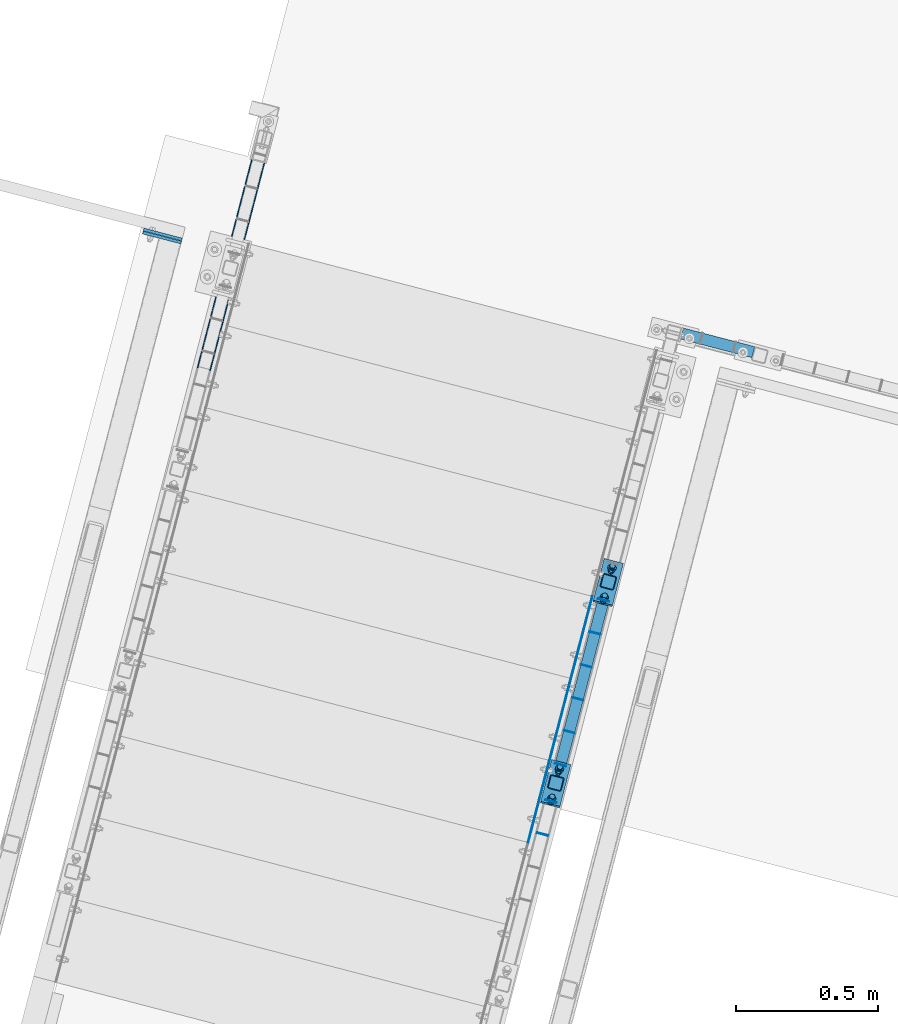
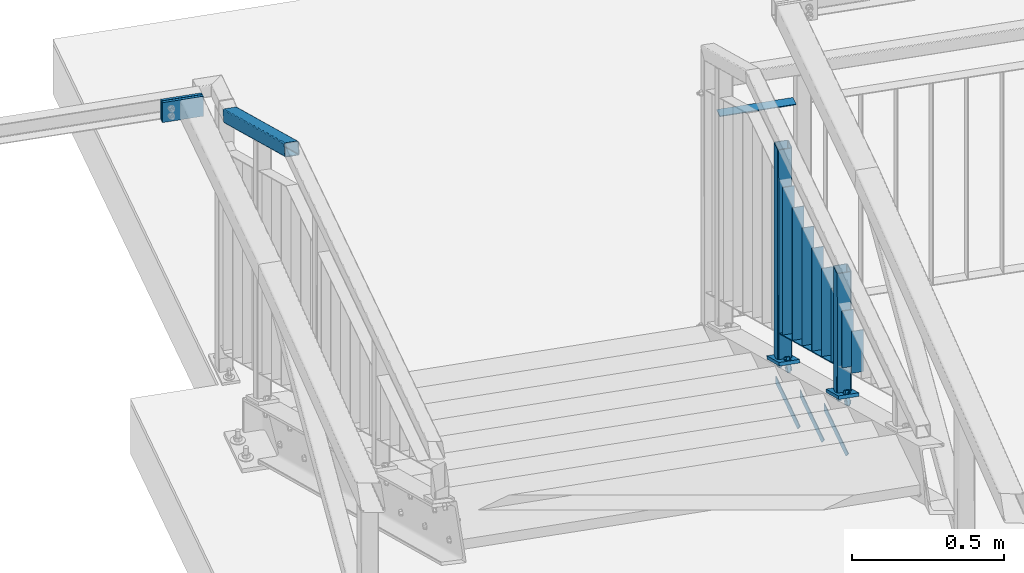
# One storey, part 93 of 169: 20 discrete accessories, 2 mechanical fasteners, 8 elements without a shape of their own.
"""IFC2X3 building model written with IfcOpenShell, lengths in millimetres."""

from ifc_helpers import new_model, si_unit, frame, frame_2d, origin_with_axes, origin_2d_with_axis, place, context, subcontext, project, spatial, polyline, circle_curve, parameter, trimmed, segment, composite_curve, rectangle, hollow_rectangle, circle, outline, extrude, boolean, clip, halfspace, source, transform, mapped, material, type_object, element, aggregate, save


model = new_model("IFC2X3")

# Units and contexts
model_context = context("Model", 3, precision=1e-05, world=origin_with_axes())
body_context = subcontext(model_context, "Body", "Model", "MODEL_VIEW")
ifc_project = project(units=[si_unit("LENGTHUNIT", "METRE", prefix="MILLI"), si_unit("AREAUNIT", "SQUARE_METRE"), si_unit("VOLUMEUNIT", "CUBIC_METRE"), si_unit("MASSUNIT", "GRAM", prefix="KILO"), si_unit("TIMEUNIT", "SECOND"), si_unit("PLANEANGLEUNIT", "RADIAN"), si_unit("SOLIDANGLEUNIT", "STERADIAN"), si_unit("THERMODYNAMICTEMPERATUREUNIT", "DEGREE_CELSIUS"), si_unit("LUMINOUSINTENSITYUNIT", "LUMEN")], contexts=[model_context])

# Site, building, storey
site_placement = place(None, origin_with_axes())
site = spatial("IfcSite", under=ifc_project, at=site_placement, Name="Undefined", CompositionType="ELEMENT")
building_placement = place(site_placement, origin_with_axes())
building = spatial("IfcBuilding", under=site, at=building_placement, Name="Undefined", CompositionType="ELEMENT")
storey_placement = place(building_placement, origin_with_axes())
storey = spatial("IfcBuildingStorey", under=building, at=storey_placement, Name="Undefined", CompositionType="ELEMENT", Elevation=0.0)

# Assembly, discrete accessories
assembly_1_placement = place(storey_placement, origin_with_axes())
assembly_1 = element("IfcElementAssembly", 1, at=assembly_1_placement, inside=storey, Name="Steel Assembly", AssemblyPlace="NOTDEFINED", PredefinedType="RIGID_FRAME")
ifc_material_1 = material(Name="STEEL/S235")
discrete_accessory_type_1 = type_object("IfcDiscreteAccessoryType", Name="BLACHA")
discrete_accessory_1_placement = place(assembly_1_placement, frame((-8830.86308193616, 20045.8934008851, 13133.5864483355), z_axis=(0.111692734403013, 0.427781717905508, 0.896954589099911), x_axis=(-0.967563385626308, 0.252628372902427, -1.72000000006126e-07)))
discrete_accessory_1 = element("IfcDiscreteAccessory", 2, at=discrete_accessory_1_placement, type_object=discrete_accessory_type_1, material=ifc_material_1, Name="BLACHA", ObjectType="BL12*170", context=body_context, shape_type="SweptSolid", body=[
    extrude(outline(polyline([(70.0000000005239, 84.9999999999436), (70.0000000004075, -84.9999999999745), (-5.82076609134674e-11, -84.99999999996), (5.82076609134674e-11, 84.99999999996), (70.0000000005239, 84.9999999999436)])), frame((-1.81898942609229e-12, -1.81898940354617e-12, -5.99999999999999), z_axis=(0.0, 0.0, 1.0), x_axis=(1.0, 0.0, 0.0)), (0.0, 0.0, 1.0), 12.0),
])
discrete_accessory_2_placement = place(assembly_1_placement, frame((-9016.1231410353, 19336.3497817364, 13495.0562427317), z_axis=(0.111692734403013, 0.427781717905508, 0.896954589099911), x_axis=(-0.967563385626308, 0.252628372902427, -1.72000000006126e-07)))
discrete_accessory_2 = element("IfcDiscreteAccessory", 3, at=discrete_accessory_2_placement, type_object=discrete_accessory_type_1, material=ifc_material_1, Name="BLACHA", ObjectType="BL12*170", context=body_context, shape_type="SweptSolid", body=[
    extrude(outline(polyline([(70.0000000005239, 84.9999999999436), (70.0000000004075, -84.9999999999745), (-5.82076609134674e-11, -84.99999999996), (5.82076609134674e-11, 84.99999999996), (70.0000000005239, 84.9999999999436)])), frame((-1.81898942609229e-12, -1.81898940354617e-12, -5.99999999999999), z_axis=(0.0, 0.0, 1.0), x_axis=(1.0, 0.0, 0.0)), (0.0, 0.0, 1.0), 12.0),
])

# Assembly, discrete accessory
assembly_2_placement = place(storey_placement, origin_with_axes())
assembly_2 = element("IfcElementAssembly", 4, at=assembly_2_placement, inside=storey, Name="Steel Assembly", AssemblyPlace="NOTDEFINED", PredefinedType="RIGID_FRAME")
discrete_accessory_3_placement = place(assembly_2_placement, frame((-10438.3229342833, 21271.7284155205, 13910.4176082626), z_axis=(-0.252628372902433, -0.967563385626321, 0.0), x_axis=(0.0, 0.0, 1.0)))
discrete_accessory_3 = element("IfcDiscreteAccessory", 5, at=discrete_accessory_3_placement, type_object=discrete_accessory_type_1, material=ifc_material_1, Name="BLACHA", ObjectType="BL10*140", context=body_context, shape_type="SweptSolid", body=[
    extrude(outline(polyline([(1.4915713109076e-10, 69.9999999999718), (79.9999999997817, 69.999999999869), (79.9999999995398, -70.00000000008), (-1.4915713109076e-10, -69.9999999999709), (1.4915713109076e-10, 69.9999999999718)])), frame((-1.81898926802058e-12, -1.18000176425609e-16, -5.00000000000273), z_axis=(0.0, 0.0, 1.0), x_axis=(1.0, 0.0, 0.0)), (0.0, 0.0, 1.0), 10.0),
])
aggregate(assembly_2, [discrete_accessory_3])

assembly_3_placement = place(storey_placement, origin_with_axes())
assembly_3 = element("IfcElementAssembly", 6, at=assembly_3_placement, inside=storey, Name="Steel Assembly", AssemblyPlace="NOTDEFINED", PredefinedType="RIGID_FRAME")
discrete_accessory_4_placement = place(assembly_3_placement, frame((-10435.5440221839, 21282.3716127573, 13910.417608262), z_axis=(-0.252628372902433, -0.967563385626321, 0.0), x_axis=(0.0, 0.0, 1.0)))
discrete_accessory_4 = element("IfcDiscreteAccessory", 7, at=discrete_accessory_4_placement, type_object=discrete_accessory_type_1, material=ifc_material_1, Name="BLACHA", ObjectType="BL10*140", context=body_context, shape_type="SweptSolid", body=[
    extrude(outline(polyline([(1.4915713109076e-10, 69.9999999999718), (79.9999999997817, 69.999999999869), (79.9999999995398, -70.00000000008), (-1.4915713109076e-10, -69.9999999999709), (1.4915713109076e-10, 69.9999999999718)])), frame((-1.81898926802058e-12, -1.18000176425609e-16, -5.00000000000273), z_axis=(0.0, 0.0, 1.0), x_axis=(1.0, 0.0, 0.0)), (0.0, 0.0, 1.0), 10.0),
])
aggregate(assembly_3, [discrete_accessory_4])

assembly_4_placement = place(storey_placement, origin_with_axes())
assembly_4 = element("IfcElementAssembly", 8, at=assembly_4_placement, inside=storey, Name="Steel Assembly", AssemblyPlace="NOTDEFINED", PredefinedType="RIGID_FRAME")
discrete_accessory_type_2 = type_object("IfcDiscreteAccessoryType", Name="PORĘCZ")
discrete_accessory_5_placement = place(assembly_4_placement, frame((-8550.11127830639, 20918.9666523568, 13495.4183763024), z_axis=(0.0, 0.0, 1.0), x_axis=(0.967563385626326, -0.252628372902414, 0.0)))
discrete_accessory_5 = element("IfcDiscreteAccessory", 9, at=discrete_accessory_5_placement, type_object=discrete_accessory_type_2, material=ifc_material_1, Name="PORĘCZ", ObjectType="BL40*3", context=body_context, shape_type="CSG", body=[
    boolean("DIFFERENCE", boolean("DIFFERENCE", boolean("DIFFERENCE", extrude(outline(polyline([(-56.0820904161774, -20.0000000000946), (-56.0820904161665, 19.9999999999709), (204.000000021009, 20.0000000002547), (204.000000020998, -19.9999999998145), (-56.0820904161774, -20.0000000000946)])), frame((1.81898940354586e-12, -1.77635442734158e-15, -1.50000000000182), z_axis=(0.0, 0.0, 1.0), x_axis=(1.0, 0.0, 0.0)), (0.0, 0.0, 1.0), 3.0), extrude(rectangle(XDim=51.0, YDim=51.0, at=origin_2d_with_axis()), frame((230.00000000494, -2.41925590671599e-09, 140.0), z_axis=(-2.54700353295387e-10, 0.0, -1.0), x_axis=(-1.0, -3.46944695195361e-18, -1.38777878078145e-17)), (0.0, 0.0, 1.0), 280.0)), halfspace(frame((-56.0820904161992, 1000.0000000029, 0.0), z_axis=(1.0, 0.0, 0.0), x_axis=(-2.54700353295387e-10, 0.0, -1.0)), True)), halfspace(frame((204.0000000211, 999.999999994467, 0.0), z_axis=(-1.0, -3.46944695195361e-18, -1.38777878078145e-17), x_axis=(0.0, 0.0, 1.0)), True)),
])
aggregate(assembly_4, [discrete_accessory_5])

# Discrete accessory
discrete_accessory_6_placement = place(assembly_1_placement, frame((-9096.47462554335, 19167.1480649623, 13946.7451865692), z_axis=(-0.252628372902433, -0.967563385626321, 0.0), x_axis=(-2.54700353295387e-10, 0.0, -1.0)))
discrete_accessory_6 = element("IfcDiscreteAccessory", 10, at=discrete_accessory_6_placement, type_object=discrete_accessory_type_2, material=ifc_material_1, Name="PORĘCZ", ObjectType="BL40*3", context=body_context, shape_type="Clipping", body=[
    clip(clip(extrude(outline(polyline([(246.326238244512, -19.9999999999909), (77.8275788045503, -19.9999999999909), (77.8275788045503, 19.9999999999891), (246.326238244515, 19.9999999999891), (246.326238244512, -19.9999999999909)])), frame((1.81898940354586e-12, -1.77635442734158e-15, -1.50000000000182), z_axis=(0.0, 0.0, 1.0), x_axis=(1.0, 0.0, 0.0)), (0.0, 0.0, 1.0), 3.0), halfspace(frame((77.8275788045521, 999.999999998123, 1.23091012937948e-08), z_axis=(1.0, 0.0, 0.0), x_axis=(-2.54700353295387e-10, 0.0, -1.0)), True)), halfspace(frame((246.655722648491, 999.999999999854, -0.66552116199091), z_axis=(-0.89618489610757, 8.07050632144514e-16, -0.443680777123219), x_axis=(-0.443680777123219, 6.25441316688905e-11, 0.89618489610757)), True)),
])

discrete_accessory_7_placement = place(assembly_1_placement, frame((-9066.15922079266, 19283.2556712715, 13987.3359134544), z_axis=(-0.252628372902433, -0.967563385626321, 0.0), x_axis=(-2.54700353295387e-10, 0.0, -1.0)))
discrete_accessory_7 = element("IfcDiscreteAccessory", 11, at=discrete_accessory_7_placement, type_object=discrete_accessory_type_2, material=ifc_material_1, Name="PORĘCZ", ObjectType="BL40*3", context=body_context, shape_type="Clipping", body=[
    clip(clip(extrude(outline(polyline([(346.326238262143, -19.9999999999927), (118.41830568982, -19.9999999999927), (118.41830568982, 19.9999999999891), (346.326238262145, 19.9999999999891), (346.326238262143, -19.9999999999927)])), frame((1.81898940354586e-12, -1.77635442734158e-15, -1.50000000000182), z_axis=(0.0, 0.0, 1.0), x_axis=(1.0, 0.0, 0.0)), (0.0, 0.0, 1.0), 3.0), halfspace(frame((118.41830568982, 999.999999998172, 1.19453034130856e-08), z_axis=(1.0, 0.0, 0.0), x_axis=(-2.54700353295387e-10, 0.0, -1.0)), True)), halfspace(frame((346.655722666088, 999.999999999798, -0.665521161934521), z_axis=(-0.89618489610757, 8.07050632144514e-16, -0.443680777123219), x_axis=(-0.443680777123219, 6.25441316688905e-11, 0.89618489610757)), True)),
])

discrete_accessory_8_placement = place(assembly_1_placement, frame((-9032.47618547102, 19412.261258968, 14121.3270752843), z_axis=(-0.252628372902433, -0.967563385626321, 0.0), x_axis=(-2.54700353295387e-10, 0.0, -1.0)))
discrete_accessory_8 = element("IfcDiscreteAccessory", 12, at=discrete_accessory_8_placement, type_object=discrete_accessory_type_2, material=ifc_material_1, Name="PORĘCZ", ObjectType="BL40*3", context=body_context, shape_type="Clipping", body=[
    clip(clip(extrude(outline(polyline([(546.326238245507, -19.9999999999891), (252.40946751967, -19.9999999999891), (252.40946751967, 19.9999999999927), (546.32623824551, 19.9999999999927), (546.326238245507, -19.9999999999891)])), frame((1.81898940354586e-12, -1.77635442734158e-15, -1.50000000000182), z_axis=(0.0, 0.0, 1.0), x_axis=(1.0, 0.0, 0.0)), (0.0, 0.0, 1.0), 3.0), halfspace(frame((252.409467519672, 999.999999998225, 1.1543306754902e-08), z_axis=(1.0, 0.0, 0.0), x_axis=(-2.54700353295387e-10, 0.0, -1.0)), True)), halfspace(frame((546.655722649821, 999.999999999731, -0.665521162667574), z_axis=(-0.89618489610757, 8.07050632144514e-16, -0.443680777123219), x_axis=(-0.443680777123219, 6.25441316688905e-11, 0.89618489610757)), True)),
])

discrete_accessory_9_placement = place(assembly_1_placement, frame((-9002.16078072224, 19528.3688652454, 14061.9178021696), z_axis=(-0.252628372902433, -0.967563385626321, 0.0), x_axis=(-2.54700353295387e-10, 0.0, -1.0)))
discrete_accessory_9 = element("IfcDiscreteAccessory", 13, at=discrete_accessory_9_placement, type_object=discrete_accessory_type_2, material=ifc_material_1, Name="PORĘCZ", ObjectType="BL40*3", context=body_context, shape_type="Clipping", body=[
    clip(clip(extrude(outline(polyline([(546.326238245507, -19.9999999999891), (193.000194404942, -19.9999999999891), (193.000194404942, 19.9999999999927), (546.32623824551, 19.9999999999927), (546.326238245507, -19.9999999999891)])), frame((1.81898940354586e-12, -1.77635442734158e-15, -1.50000000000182), z_axis=(0.0, 0.0, 1.0), x_axis=(1.0, 0.0, 0.0)), (0.0, 0.0, 1.0), 3.0), halfspace(frame((193.000194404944, 999.999999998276, 1.11831468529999e-08), z_axis=(1.0, 0.0, 0.0), x_axis=(-2.54700353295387e-10, 0.0, -1.0)), True)), halfspace(frame((546.655722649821, 999.999999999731, -0.665521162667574), z_axis=(-0.89618489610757, 8.07050632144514e-16, -0.443680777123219), x_axis=(-0.443680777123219, 6.25441316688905e-11, 0.89618489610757)), True)),
])

discrete_accessory_10_placement = place(assembly_1_placement, frame((-8971.84537597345, 19644.4764715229, 14002.5085290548), z_axis=(-0.252628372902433, -0.967563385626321, 0.0), x_axis=(-2.54700353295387e-10, 0.0, -1.0)))
discrete_accessory_10 = element("IfcDiscreteAccessory", 14, at=discrete_accessory_10_placement, type_object=discrete_accessory_type_2, material=ifc_material_1, Name="PORĘCZ", ObjectType="BL40*3", context=body_context, shape_type="Clipping", body=[
    clip(clip(extrude(outline(polyline([(546.326238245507, -19.9999999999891), (133.590921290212, -19.9999999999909), (133.590921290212, 19.9999999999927), (546.32623824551, 19.9999999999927), (546.326238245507, -19.9999999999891)])), frame((1.81898940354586e-12, -1.77635442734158e-15, -1.50000000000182), z_axis=(0.0, 0.0, 1.0), x_axis=(1.0, 0.0, 0.0)), (0.0, 0.0, 1.0), 3.0), halfspace(frame((133.590921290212, 999.99999999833, 1.08193489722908e-08), z_axis=(1.0, 0.0, 0.0), x_axis=(-2.54700353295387e-10, 0.0, -1.0)), True)), halfspace(frame((546.655722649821, 999.999999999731, -0.665521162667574), z_axis=(-0.89618489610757, 8.07050632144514e-16, -0.443680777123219), x_axis=(-0.443680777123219, 6.25441316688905e-11, 0.89618489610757)), True)),
])

discrete_accessory_11_placement = place(assembly_1_placement, frame((-8941.52997120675, 19760.5840778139, 14143.0992559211), z_axis=(-0.252628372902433, -0.967563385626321, 0.0), x_axis=(-2.54700353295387e-10, 0.0, -1.0)))
discrete_accessory_11 = element("IfcDiscreteAccessory", 15, at=discrete_accessory_11_placement, type_object=discrete_accessory_type_2, material=ifc_material_1, Name="PORĘCZ", ObjectType="BL40*3", context=body_context, shape_type="Clipping", body=[
    clip(clip(extrude(outline(polyline([(746.326238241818, -19.9999999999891), (274.181648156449, -19.9999999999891), (274.181648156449, 19.9999999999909), (746.326238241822, 19.9999999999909), (746.326238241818, -19.9999999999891)])), frame((1.81898940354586e-12, -1.77635442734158e-15, -1.50000000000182), z_axis=(0.0, 0.0, 1.0), x_axis=(1.0, 0.0, 0.0)), (0.0, 0.0, 1.0), 3.0), halfspace(frame((274.181648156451, 1000.00000000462, -2.0310835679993e-08), z_axis=(1.0, 0.0, 0.0), x_axis=(-2.54700353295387e-10, 0.0, -1.0)), True)), halfspace(frame((746.655722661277, 1000.00000000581, -0.665521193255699), z_axis=(-0.89618489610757, 8.07050632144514e-16, -0.443680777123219), x_axis=(-0.443680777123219, 6.25441316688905e-11, 0.89618489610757)), True)),
])

discrete_accessory_12_placement = place(assembly_1_placement, frame((-8911.21456644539, 19876.6916841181, 14283.6899828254), z_axis=(-0.252628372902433, -0.967563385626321, 0.0), x_axis=(-2.54700353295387e-10, 0.0, -1.0)))
discrete_accessory_12 = element("IfcDiscreteAccessory", 16, at=discrete_accessory_12_placement, type_object=discrete_accessory_type_2, material=ifc_material_1, Name="PORĘCZ", ObjectType="BL40*3", context=body_context, shape_type="Clipping", body=[
    clip(clip(extrude(outline(polyline([(946.326238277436, -19.9999999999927), (414.772375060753, -19.9999999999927), (414.772375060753, 19.9999999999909), (946.326238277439, 19.9999999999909), (946.326238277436, -19.9999999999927)])), frame((1.81898940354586e-12, -1.77635442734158e-15, -1.50000000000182), z_axis=(0.0, 0.0, 1.0), x_axis=(1.0, 0.0, 0.0)), (0.0, 0.0, 1.0), 3.0), halfspace(frame((414.772375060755, 999.999999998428, 1.00990291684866e-08), z_axis=(1.0, 0.0, 0.0), x_axis=(-2.54700353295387e-10, 0.0, -1.0)), True)), halfspace(frame((946.655722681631, 999.999999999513, -0.665521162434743), z_axis=(-0.89618489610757, 8.07050632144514e-16, -0.443680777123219), x_axis=(-0.443680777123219, 6.25441316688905e-11, 0.89618489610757)), True)),
])

discrete_accessory_13_placement = place(assembly_1_placement, frame((-8880.89916169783, 19992.7992903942, 14224.2807097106), z_axis=(-0.252628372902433, -0.967563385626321, 0.0), x_axis=(-2.54700353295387e-10, 0.0, -1.0)))
discrete_accessory_13 = element("IfcDiscreteAccessory", 17, at=discrete_accessory_13_placement, type_object=discrete_accessory_type_2, material=ifc_material_1, Name="PORĘCZ", ObjectType="BL40*3", context=body_context, shape_type="Clipping", body=[
    clip(clip(extrude(outline(polyline([(946.326238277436, -19.9999999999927), (355.363101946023, -19.9999999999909), (355.363101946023, 19.9999999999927), (946.326238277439, 19.9999999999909), (946.326238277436, -19.9999999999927)])), frame((1.81898940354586e-12, -1.77635442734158e-15, -1.50000000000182), z_axis=(0.0, 0.0, 1.0), x_axis=(1.0, 0.0, 0.0)), (0.0, 0.0, 1.0), 3.0), halfspace(frame((355.363101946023, 999.999999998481, 9.73159330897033e-09), z_axis=(1.0, 0.0, 0.0), x_axis=(-2.54700353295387e-10, 0.0, -1.0)), True)), halfspace(frame((946.655722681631, 999.999999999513, -0.665521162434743), z_axis=(-0.89618489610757, 8.07050632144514e-16, -0.443680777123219), x_axis=(-0.443680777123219, 6.25441316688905e-11, 0.89618489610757)), True)),
])

discrete_accessory_14_placement = place(assembly_1_placement, frame((-9049.31770312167, 19347.758465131, 13606.3314943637), z_axis=(0.967563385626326, -0.252628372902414, 0.0), x_axis=(0.226401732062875, 0.867115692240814, -0.443680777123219)))
discrete_accessory_14 = element("IfcDiscreteAccessory", 18, at=discrete_accessory_14_placement, type_object=discrete_accessory_type_2, material=ifc_material_1, Name="PORĘCZ", ObjectType="BL40*3", context=body_context, shape_type="CSG", body=[
    boolean("DIFFERENCE", boolean("DIFFERENCE", boolean("DIFFERENCE", extrude(rectangle(XDim=3.0, YDim=40.0, at=origin_2d_with_axis()), frame((799.420677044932, 0.0, 3.24081951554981e-14), z_axis=(-1.0, -3.46944695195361e-18, -1.38777878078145e-17), x_axis=(1.73472347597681e-18, -1.0, 0.0)), (0.0, 0.0, 1.0), 799.42), extrude(rectangle(XDim=51.0, YDim=51.0, at=origin_2d_with_axis()), frame((-62.1153087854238, 125.465885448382, -3.44399542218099e-09), z_axis=(0.44368077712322, -0.89618489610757, 2.77484007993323e-11), x_axis=(0.896184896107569, 0.443680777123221, 5.60551815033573e-11)), (0.0, 0.0, 1.0), 280.0)), extrude(rectangle(XDim=51.0, YDim=51.0, at=origin_2d_with_axis()), frame((756.164910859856, 125.465885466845, 3.9541654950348e-08), z_axis=(0.44368077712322, -0.89618489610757, 2.77484007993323e-11), x_axis=(0.896184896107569, 0.443680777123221, 5.60551815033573e-11)), (0.0, 0.0, 1.0), 280.0)), halfspace(frame((795.87559720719, -11.0920194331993, 999.999999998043), z_axis=(-0.896184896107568, -0.443680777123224, -5.60462156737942e-11), x_axis=(0.44368077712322, -0.89618489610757, 2.77484007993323e-11)), True)),
])

# Assembly, discrete accessory
assembly_5_placement = place(storey_placement, origin_with_axes())
assembly_5 = element("IfcElementAssembly", 19, at=assembly_5_placement, inside=storey, Name="Steel Assembly", AssemblyPlace="NOTDEFINED", PredefinedType="RIGID_FRAME")
discrete_accessory_15_placement = place(assembly_5_placement, frame((-10401.9542174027, 20381.8403909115, 14235.161986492), z_axis=(0.967563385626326, -0.252628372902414, 0.0), x_axis=(0.226401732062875, 0.867115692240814, -0.443680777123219)))
discrete_accessory_15 = element("IfcDiscreteAccessory", 20, at=discrete_accessory_15_placement, type_object=discrete_accessory_type_2, material=ifc_material_1, Name="PORĘCZ", ObjectType="SHS50*3", context=body_context, shape_type="Clipping", body=[
    clip(clip(extrude(hollow_rectangle(XDim=50.0, YDim=50.0, WallThickness=3.0, InnerFilletRadius=3.0, OuterFilletRadius=6.0, at=origin_2d_with_axis()), frame((1395.59672304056, 0.0, 3.26611884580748e-14), z_axis=(-1.0, -3.46944695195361e-18, -1.38777878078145e-17), x_axis=(1.73472347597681e-18, -1.0, 0.0)), (0.0, 0.0, 1.0), 955.44), halfspace(frame((1346.3260491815, -25.0000000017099, -1.34969013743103e-09), z_axis=(0.973700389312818, 0.22783228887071, 6.08992453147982e-11), x_axis=(0.0, 0.0, 1.0)), False)), halfspace(frame((489.426209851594, 25.0000000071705, 3.73984221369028e-09), z_axis=(-0.973700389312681, -0.227832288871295, -6.09027876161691e-11), x_axis=(0.0, 0.0, 1.0)), False)),
])
aggregate(assembly_5, [discrete_accessory_15])

# Discrete accessory
discrete_accessory_type_3 = type_object("IfcDiscreteAccessoryType", Name="STANCHION")
discrete_accessory_16_placement = place(assembly_1_placement, frame((-9049.31770312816, 19347.758465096, 13116.2762906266), z_axis=(0.0, 0.0, 1.0), x_axis=(-0.967563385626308, 0.252628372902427, -1.72000000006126e-07)))
discrete_accessory_16 = element("IfcDiscreteAccessory", 21, at=discrete_accessory_16_placement, type_object=discrete_accessory_type_3, material=ifc_material_1, Name="STANCHION", ObjectType="SHS50*3", context=body_context, shape_type="Clipping", body=[
    clip(clip(extrude(hollow_rectangle(XDim=50.0, YDim=50.0, WallThickness=3.0, InnerFilletRadius=3.0, OuterFilletRadius=6.0, at=origin_2d_with_axis()), frame((0.0, 0.0, 874.141317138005), z_axis=(-2.54700353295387e-10, 0.0, -1.0), x_axis=(0.0, 1.0, 0.0)), (0.0, 0.0, 1.0), 489.98), halfspace(frame((1000.00000000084, 1.21617631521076e-08, 874.141317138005), z_axis=(-2.54700353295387e-10, 0.0, -1.0), x_axis=(0.0, 1.0, 0.0)), True)), halfspace(frame((-24.9999999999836, 0.0, 384.161679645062), z_axis=(-8.96961418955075e-10, -0.442122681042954, 0.896954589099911), x_axis=(-4.02729710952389e-10, 0.896954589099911, 0.442122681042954)), True)),
])

discrete_accessory_17_placement = place(assembly_1_placement, frame((-8864.05764402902, 20057.3020842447, 13116.2762906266), z_axis=(0.0, 0.0, 1.0), x_axis=(-0.967563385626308, 0.252628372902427, -1.72000000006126e-07)))
discrete_accessory_17 = element("IfcDiscreteAccessory", 22, at=discrete_accessory_17_placement, type_object=discrete_accessory_type_3, material=ifc_material_1, Name="STANCHION", ObjectType="SHS50*3", context=body_context, shape_type="Clipping", body=[
    clip(clip(extrude(hollow_rectangle(XDim=50.0, YDim=50.0, WallThickness=3.0, InnerFilletRadius=3.0, OuterFilletRadius=6.0, at=origin_2d_with_axis()), frame((0.0, 0.0, 874.141317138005), z_axis=(-2.54700353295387e-10, 0.0, -1.0), x_axis=(0.0, 1.0, 0.0)), (0.0, 0.0, 1.0), 851.45), halfspace(frame((1000.00000000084, 1.21617631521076e-08, 874.141317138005), z_axis=(-2.54700353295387e-10, 0.0, -1.0), x_axis=(0.0, 1.0, 0.0)), True)), halfspace(frame((-24.9999999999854, -7.27595761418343e-12, 22.6918852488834), z_axis=(-8.96961418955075e-10, -0.442122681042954, 0.896954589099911), x_axis=(-4.02729710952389e-10, 0.896954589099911, 0.442122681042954)), True)),
])

# Assembly, discrete accessory
assembly_6_placement = place(storey_placement, origin_with_axes())
assembly_6 = element("IfcElementAssembly", 23, at=assembly_6_placement, inside=storey, Name="Steel Assembly", AssemblyPlace="NOTDEFINED", PredefinedType="RIGID_FRAME")
ifc_material_2 = material(Name="STEEL/S235JR")
discrete_accessory_type_4 = type_object("IfcDiscreteAccessoryType", Name="ANGLE")
discrete_accessory_18_placement = place(assembly_6_placement, frame((-9071.44465480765, 19427.2854489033, 13395.7712750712), z_axis=(-0.967563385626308, 0.252628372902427, -1.72000000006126e-07), x_axis=(-0.252628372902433, -0.967563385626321, 0.0)))
discrete_accessory_18 = element("IfcDiscreteAccessory", 24, at=discrete_accessory_18_placement, type_object=discrete_accessory_type_4, material=ifc_material_2, Name="ANGLE", ObjectType="3*30", context=body_context, shape_type="CSG", body=[
    boolean("DIFFERENCE", extrude(rectangle(XDim=30.0, YDim=3.0, at=origin_2d_with_axis()), frame((300.000000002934, 1.81898940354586e-12, -1.81898940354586e-12), z_axis=(-1.0, -3.46944695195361e-18, -1.38777878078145e-17), x_axis=(1.73472347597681e-18, -1.0, 0.0)), (0.0, 0.0, 1.0), 300.0), extrude(outline(polyline([(0.0, 0.0), (30.0000000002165, -6.73026079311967e-11), (-1.63709046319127e-10, 30.0000000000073), (0.0, 0.0)])), frame((300.000000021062, -15.0000000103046, 4.50000000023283), z_axis=(-2.54700353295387e-10, 0.0, -1.0), x_axis=(-1.0, -3.46944695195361e-18, -1.38777878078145e-17)), (0.0, 0.0, 1.0), 9.0)),
])
aggregate(assembly_6, [discrete_accessory_18])

assembly_7_placement = place(storey_placement, origin_with_axes())
assembly_7 = element("IfcElementAssembly", 25, at=assembly_7_placement, inside=storey, Name="Steel Assembly", AssemblyPlace="NOTDEFINED", PredefinedType="RIGID_FRAME")
discrete_accessory_19_placement = place(assembly_7_placement, frame((-8995.89344960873, 19716.6455830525, 13248.3596919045), z_axis=(-0.967563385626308, 0.252628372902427, -1.72000000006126e-07), x_axis=(-0.252628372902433, -0.967563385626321, 0.0)))
discrete_accessory_19 = element("IfcDiscreteAccessory", 26, at=discrete_accessory_19_placement, type_object=discrete_accessory_type_4, material=ifc_material_2, Name="ANGLE", ObjectType="3*30", context=body_context, shape_type="CSG", body=[
    boolean("DIFFERENCE", extrude(rectangle(XDim=30.0, YDim=3.0, at=origin_2d_with_axis()), frame((300.000000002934, 1.81898940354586e-12, -1.81898940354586e-12), z_axis=(-1.0, -3.46944695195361e-18, -1.38777878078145e-17), x_axis=(1.73472347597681e-18, -1.0, 0.0)), (0.0, 0.0, 1.0), 300.0), extrude(outline(polyline([(0.0, 0.0), (30.0000000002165, -6.73026079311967e-11), (-1.63709046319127e-10, 30.0000000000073), (0.0, 0.0)])), frame((300.000000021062, -15.0000000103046, 4.50000000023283), z_axis=(-2.54700353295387e-10, 0.0, -1.0), x_axis=(-1.0, -3.46944695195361e-18, -1.38777878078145e-17)), (0.0, 0.0, 1.0), 9.0)),
])
aggregate(assembly_7, [discrete_accessory_19])

assembly_8_placement = place(storey_placement, origin_with_axes())
assembly_8 = element("IfcElementAssembly", 27, at=assembly_8_placement, inside=storey, Name="Steel Assembly", AssemblyPlace="NOTDEFINED", PredefinedType="RIGID_FRAME")
discrete_accessory_20_placement = place(assembly_8_placement, frame((-8920.34224440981, 20006.0057172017, 13100.9481087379), z_axis=(-0.967563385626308, 0.252628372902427, -1.72000000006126e-07), x_axis=(-0.252628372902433, -0.967563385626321, 0.0)))
discrete_accessory_20 = element("IfcDiscreteAccessory", 28, at=discrete_accessory_20_placement, type_object=discrete_accessory_type_4, material=ifc_material_2, Name="ANGLE", ObjectType="3*30", context=body_context, shape_type="CSG", body=[
    boolean("DIFFERENCE", extrude(rectangle(XDim=30.0, YDim=3.0, at=origin_2d_with_axis()), frame((300.000000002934, 1.81898940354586e-12, -1.81898940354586e-12), z_axis=(-1.0, -3.46944695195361e-18, -1.38777878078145e-17), x_axis=(1.73472347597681e-18, -1.0, 0.0)), (0.0, 0.0, 1.0), 300.0), extrude(outline(polyline([(0.0, 0.0), (30.0000000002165, -6.73026079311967e-11), (-1.63709046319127e-10, 30.0000000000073), (0.0, 0.0)])), frame((300.000000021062, -15.0000000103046, 4.50000000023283), z_axis=(-2.54700353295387e-10, 0.0, -1.0), x_axis=(-1.0, -3.46944695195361e-18, -1.38777878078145e-17)), (0.0, 0.0, 1.0), 9.0)),
])
aggregate(assembly_8, [discrete_accessory_20])

# Mechanical fastener
ifc_material_3 = material(Name="Undefined")
discrete_accessory_type_5 = type_object("IfcDiscreteAccessoryType", Name="Bolt assembly")
shared_shape_1 = source(origin_with_axes(), body_context, "Body", "SweptSolid", [
    extrude(outline(composite_curve([segment(polyline([(7.5, 7.5), (7.5, -7.5)]), True, "CONTINUOUS"), segment(trimmed(circle_curve(frame_2d((0.0, -7.5), x_axis=(1.0, 0.0)), 7.5), [parameter(0.0)], [parameter(3.14159265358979)], False, "PARAMETER"), True, "CONTINUOUS"), segment(polyline([(-7.5, -7.5), (-7.5, 7.5)]), True, "CONTINUOUS"), segment(trimmed(circle_curve(frame_2d((0.0, 7.5), x_axis=(-1.0, 0.0)), 7.5), [parameter(0.0)], [parameter(3.14159265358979)], False, "PARAMETER"), True, "DISCONTINUOUS")], self_intersect=False)), frame((0.0, 0.900000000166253, 0.0), z_axis=(0.0, 1.0, 0.0), x_axis=(1.0, 0.0, 0.0)), (0.0, 0.0, 1.0), 11.1),
    extrude(outline(composite_curve([segment(polyline([(-7.5, 7.5), (7.5, 7.5)]), True, "CONTINUOUS"), segment(trimmed(circle_curve(frame_2d((7.5, 0.0), x_axis=(0.0, 1.0)), 7.5), [parameter(0.0)], [parameter(3.14159265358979)], False, "PARAMETER"), True, "CONTINUOUS"), segment(polyline([(7.5, -7.5), (-7.5, -7.5)]), True, "CONTINUOUS"), segment(trimmed(circle_curve(frame_2d((-7.5, 0.0), x_axis=(0.0, -1.0)), 7.5), [parameter(0.0)], [parameter(3.14159265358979)], False, "PARAMETER"), True, "DISCONTINUOUS")], self_intersect=False)), frame((0.0, -11.9000000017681, 0.0), z_axis=(0.0, 1.0, 0.0), x_axis=(1.0, 0.0, 0.0)), (0.0, 0.0, 1.0), 12.0),
    extrude(outline(polyline([(10.39230484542, 0.0), (5.19615242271, 9.00000000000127), (-5.19615242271, 9.00000000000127), (-10.39230484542, 0.0), (-5.19615242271, -9.00000000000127), (5.19615242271, -9.00000000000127), (10.39230484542, 0.0)])), frame((0.0, -22.5000000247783, 0.0), z_axis=(0.0, 1.0, 0.0), x_axis=(1.0, 0.0, 0.0)), (0.0, 0.0, 1.0), 7.5),
    extrude(circle(Radius=6.0, at=origin_2d_with_axis()), frame((0.0, -15.0000000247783, 0.0), z_axis=(0.0, 1.0, 0.0), x_axis=(1.0, 0.0, 0.0)), (0.0, 0.0, 1.0), 45.0),
    extrude(circle(Radius=12.0, at=origin_2d_with_axis()), frame((0.0, -15.0000000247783, 0.0), z_axis=(0.0, 1.0, 0.0), x_axis=(1.0, 0.0, 0.0)), (0.0, 0.0, 1.0), 3.0),
    extrude(circle(Radius=12.0, at=origin_2d_with_axis()), frame((0.0, 12.000000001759, 0.0), z_axis=(0.0, 1.0, 0.0), x_axis=(1.0, 0.0, 0.0)), (0.0, 0.0, 1.0), 3.0),
    extrude(outline(polyline([(10.96965511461, 0.0), (5.484827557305, 9.50000000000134), (-5.484827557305, 9.50000000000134), (-10.96965511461, 0.0), (-5.484827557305, -9.50000000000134), (5.484827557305, -9.50000000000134), (10.96965511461, 0.0)])), frame((0.0, 14.9999935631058, 0.0), z_axis=(0.0, 1.0, 0.0), x_axis=(1.0, 0.0, 0.0)), (0.0, 0.0, 1.0), 10.0),
])
mechanical_fastener_1_placement = place(assembly_1_placement, frame((-8889.58704147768, 20058.4844129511, 13128.2047208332), z_axis=(0.226596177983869, 0.867860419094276, -0.442122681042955), x_axis=(0.967563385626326, -0.252628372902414, 0.0)))
mechanical_fastener_1 = element("IfcMechanicalFastener", 29, at=mechanical_fastener_1_placement, type_object=discrete_accessory_type_5, material=ifc_material_3, Name="Bolt assembly", NominalDiameter=12.0, NominalLength=45.0, context=body_context, shape_type="MappedRepresentation", body=[
    mapped(shared_shape_1, transform((24.9999999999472, 0.0, -60.0000000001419))),
    mapped(shared_shape_1, transform((24.9999999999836, -3.54702933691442e-11, 60.0000000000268))),
])

shared_shape_2 = source(origin_with_axes(), body_context, "Body", "SweptSolid", [
    extrude(outline(composite_curve([segment(polyline([(7.5, 7.5), (7.5, -7.5)]), True, "CONTINUOUS"), segment(trimmed(circle_curve(frame_2d((0.0, -7.5), x_axis=(1.0, 0.0)), 7.5), [parameter(0.0)], [parameter(3.14159265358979)], False, "PARAMETER"), True, "CONTINUOUS"), segment(polyline([(-7.5, -7.5), (-7.5, 7.5)]), True, "CONTINUOUS"), segment(trimmed(circle_curve(frame_2d((0.0, 7.5), x_axis=(-1.0, 0.0)), 7.5), [parameter(0.0)], [parameter(3.14159265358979)], False, "PARAMETER"), True, "DISCONTINUOUS")], self_intersect=False)), frame((0.0, 0.900000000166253, 0.0), z_axis=(0.0, 1.0, 0.0), x_axis=(1.0, 0.0, 0.0)), (0.0, 0.0, 1.0), 11.1),
    extrude(outline(composite_curve([segment(polyline([(-7.5, 7.5), (7.5, 7.5)]), True, "CONTINUOUS"), segment(trimmed(circle_curve(frame_2d((7.5, 0.0), x_axis=(0.0, 1.0)), 7.5), [parameter(0.0)], [parameter(3.14159265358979)], False, "PARAMETER"), True, "CONTINUOUS"), segment(polyline([(7.5, -7.5), (-7.5, -7.5)]), True, "CONTINUOUS"), segment(trimmed(circle_curve(frame_2d((-7.5, 0.0), x_axis=(0.0, -1.0)), 7.5), [parameter(0.0)], [parameter(3.14159265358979)], False, "PARAMETER"), True, "DISCONTINUOUS")], self_intersect=False)), frame((0.0, -11.9000000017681, 0.0), z_axis=(0.0, 1.0, 0.0), x_axis=(1.0, 0.0, 0.0)), (0.0, 0.0, 1.0), 12.0),
    extrude(outline(polyline([(10.39230484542, 0.0), (5.19615242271, 9.00000000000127), (-5.19615242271, 9.00000000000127), (-10.39230484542, 0.0), (-5.19615242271, -9.00000000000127), (5.19615242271, -9.00000000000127), (10.39230484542, 0.0)])), frame((0.0, -22.5000000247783, 0.0), z_axis=(0.0, 1.0, 0.0), x_axis=(1.0, 0.0, 0.0)), (0.0, 0.0, 1.0), 7.5),
    extrude(circle(Radius=6.0, at=origin_2d_with_axis()), frame((0.0, -15.0000000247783, 0.0), z_axis=(0.0, 1.0, 0.0), x_axis=(1.0, 0.0, 0.0)), (0.0, 0.0, 1.0), 45.0),
    extrude(circle(Radius=12.0, at=origin_2d_with_axis()), frame((0.0, -15.0000000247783, 0.0), z_axis=(0.0, 1.0, 0.0), x_axis=(1.0, 0.0, 0.0)), (0.0, 0.0, 1.0), 3.0),
    extrude(circle(Radius=12.0, at=origin_2d_with_axis()), frame((0.0, 12.000000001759, 0.0), z_axis=(0.0, 1.0, 0.0), x_axis=(1.0, 0.0, 0.0)), (0.0, 0.0, 1.0), 3.0),
    extrude(outline(polyline([(10.96965511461, 0.0), (5.484827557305, 9.50000000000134), (-5.484827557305, 9.50000000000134), (-10.96965511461, 0.0), (-5.484827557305, -9.50000000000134), (5.484827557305, -9.50000000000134), (10.96965511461, 0.0)])), frame((0.0, 14.9999935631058, 0.0), z_axis=(0.0, 1.0, 0.0), x_axis=(1.0, 0.0, 0.0)), (0.0, 0.0, 1.0), 10.0),
])
mechanical_fastener_2_placement = place(assembly_1_placement, frame((-9074.84710057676, 19348.9407938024, 13489.6745152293), z_axis=(0.226596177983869, 0.867860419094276, -0.442122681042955), x_axis=(0.967563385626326, -0.252628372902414, 0.0)))
mechanical_fastener_2 = element("IfcMechanicalFastener", 30, at=mechanical_fastener_2_placement, type_object=discrete_accessory_type_5, material=ifc_material_3, Name="Bolt assembly", NominalDiameter=12.0, NominalLength=45.0, context=body_context, shape_type="MappedRepresentation", body=[
    mapped(shared_shape_2, transform((24.9999999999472, 0.0, -60.0000000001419))),
    mapped(shared_shape_2, transform((24.9999999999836, -3.54702933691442e-11, 60.0000000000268))),
])

aggregate(assembly_1, [mechanical_fastener_1, discrete_accessory_1, mechanical_fastener_2, discrete_accessory_2, discrete_accessory_16, discrete_accessory_6, discrete_accessory_7, discrete_accessory_8, discrete_accessory_9, discrete_accessory_10, discrete_accessory_11, discrete_accessory_12, discrete_accessory_13, discrete_accessory_14, discrete_accessory_17])

save(model, "model.ifc")
